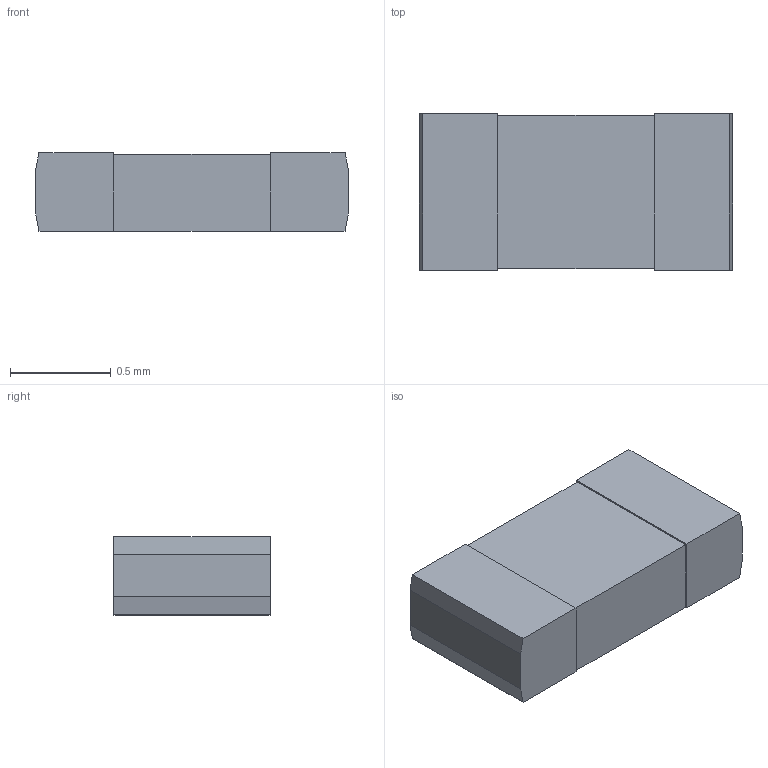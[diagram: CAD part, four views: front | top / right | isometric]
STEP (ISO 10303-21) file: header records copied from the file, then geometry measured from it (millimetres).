
FILE_DESCRIPTION(('FreeCAD Model'),'2;1');
FILE_NAME('Open CASCADE Shape Model','2021-06-29T01:54:48',('Author'),( ''),'Open CASCADE STEP processor 7.5','FreeCAD','Unknown');
FILE_SCHEMA(('AUTOMOTIVE_DESIGN { 1 0 10303 214 1 1 1 1 }'));
Length unit declared in the file: millimetre
Products named in the file (1): intersection
Bounding box: 1.55 x 0.78 x 0.39 mm (x, y, z)
Volume: 0.5 mm3; surface area: 4.2 mm2
Topology: 1 solids, 1 shells, 26 faces, 64 edges, 40 vertices
Faces by surface type: bspline 20, plane 6
Entity records: 1632 total; most frequent: CARTESIAN_POINT 513, B_SPLINE_CURVE_WITH_KNOTS 172, ORIENTED_EDGE 128, PCURVE 128, DEFINITIONAL_REPRESENTATION 128, EDGE_CURVE 64, SURFACE_CURVE 64, VERTEX_POINT 40
